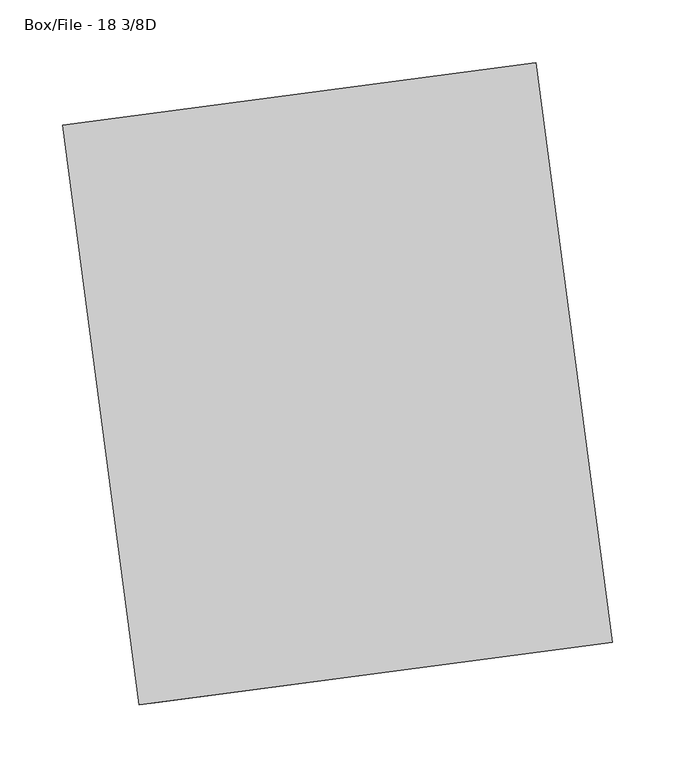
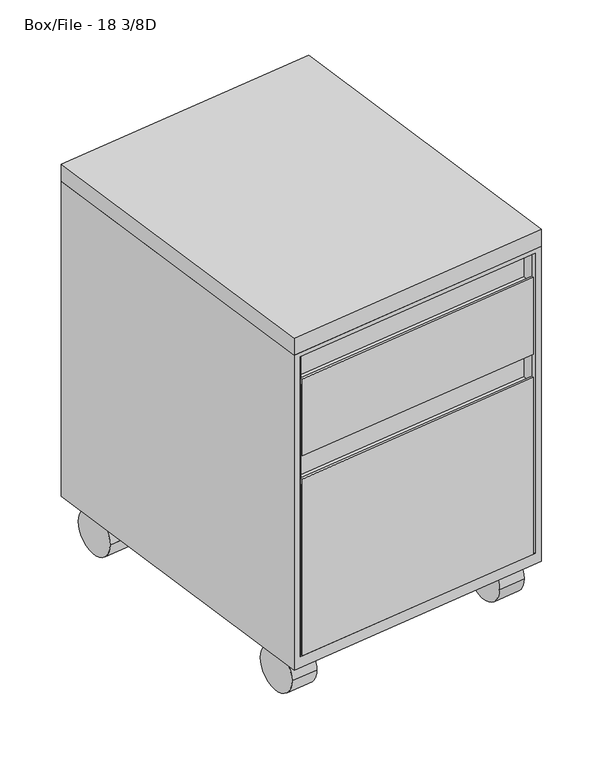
"""IFC4 building model written with IfcOpenShell, lengths in millimetres: furniture geometry, Steelcase - Universal Storage - Mobile Pedestal - Flush Steel : Box/File - 18 3/8D."""

from ifc_helpers import new_model, si_unit, point, frame, frame_2d, origin, place, context, project, spatial, polyline, circle_curve, trimmed, segment, composite_curve, outline, extrude, faceted_brep, source, transform, mapped, element, save


def box_file_18_3_8d_6d5d1077(model_context):
    return source(origin(), model_context, "Body", "SolidModel", [
        extrude(outline(polyline([(377.7311592, 49.8013183), (0.0, 0.0), (-61.0232154, 462.8465805), (316.7079438, 512.6478988), (377.7311592, 49.8013183)])), frame((0.0, 0.0, 533.4), z_axis=(0.0, 0.0, 1.0), x_axis=(1.0, 0.0, 0.0)), (0.0, 0.0, 1.0), 25.4),
        extrude(outline(composite_curve([segment(trimmed(circle_curve(frame_2d((0.0, -31.75)), 31.75), [point((0.0, -63.5))], [point((0.0, 0.0))], False, "CARTESIAN"), True, "CONTINUOUS"), segment(trimmed(circle_curve(frame_2d((0.0, -31.75)), 31.75), [point((0.0, 0.0))], [point((0.0, -63.5))], False, "CARTESIAN"), True, "CONTINUOUS")], self_intersect=False)), frame((269.7691174, 487.3712047, 31.75), z_axis=(0.9914203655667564, 0.13071212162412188, 0.0), x_axis=(0.0, 0.0, -1.0)), (0.0, 0.0, 1.0), 38.1),
        extrude(outline(composite_curve([segment(trimmed(circle_curve(frame_2d((0.0, -31.75)), 31.75), [point((0.0, -63.5))], [point((0.0, 0.0))], False, "CARTESIAN"), True, "CONTINUOUS"), segment(trimmed(circle_curve(frame_2d((0.0, -31.75)), 31.75), [point((0.0, 0.0))], [point((0.0, -63.5))], False, "CARTESIAN"), True, "CONTINUOUS")], self_intersect=False)), frame((-46.8854607, 445.4048859, 31.75), z_axis=(0.9914203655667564, 0.13071212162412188, 0.0), x_axis=(0.0, 0.0, -1.0)), (0.0, 0.0, 1.0), 38.1),
        extrude(outline(composite_curve([segment(trimmed(circle_curve(frame_2d((0.0, -31.75)), 31.75), [point((0.0, -63.5))], [point((0.0, 0.0))], False, "CARTESIAN"), True, "CONTINUOUS"), segment(trimmed(circle_curve(frame_2d((0.0, -31.75)), 31.75), [point((0.0, 0.0))], [point((0.0, -63.5))], False, "CARTESIAN"), True, "CONTINUOUS")], self_intersect=False)), frame((317.5119829, 125.2529213, 31.75), z_axis=(0.9914203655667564, 0.13071212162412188, 0.0), x_axis=(0.0, 0.0, -1.0)), (0.0, 0.0, 1.0), 38.1),
        extrude(outline(composite_curve([segment(trimmed(circle_curve(frame_2d((0.0, -31.75)), 31.75), [point((0.0, -63.5))], [point((0.0, 0.0))], False, "CARTESIAN"), True, "CONTINUOUS"), segment(trimmed(circle_curve(frame_2d((0.0, -31.75)), 31.75), [point((0.0, 0.0))], [point((0.0, -63.5))], False, "CARTESIAN"), True, "CONTINUOUS")], self_intersect=False)), frame((0.8565804, 83.5040316, 31.75), z_axis=(0.9914203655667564, 0.13071212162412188, 0.0), x_axis=(0.0, 0.0, -1.0)), (0.0, 0.0, 1.0), 38.1),
        extrude(outline(polyline([(364.8325558, 51.3029701), (12.2838426, 4.8217882), (10.2087876, 20.560587), (362.7575008, 67.0417688), (364.8325558, 51.3029701)])), frame((0.0, 0.0, 79.5439123), z_axis=(0.0, 0.0, 1.0), x_axis=(1.0, 0.0, 0.0)), (0.0, 0.0, 1.0), 254.000003),
        extrude(outline(polyline([(365.2474805, 48.1558644), (12.6987674, 1.6746826), (12.2838426, 4.8217882), (364.8325558, 51.3029701), (365.2474805, 48.1558644)])), frame((0.0, 0.0, 79.5439123), z_axis=(0.0, 0.0, 1.0), x_axis=(1.0, 0.0, 0.0)), (0.0, 0.0, 1.0), 263.524997),
        extrude(outline(polyline([(364.8325558, 51.3029701), (12.2838426, 4.8217882), (10.2087876, 20.560587), (362.7575008, 67.0417688), (364.8325558, 51.3029701)])), frame((0.0, 0.0, 377.8669214), z_axis=(0.0, 0.0, 1.0), x_axis=(1.0, 0.0, 0.0)), (0.0, 0.0, 1.0), 104.9019879),
        extrude(outline(polyline([(365.2475369, 48.1554365), (12.6988238, 1.6742547), (12.2838426, 4.8217882), (364.8325558, 51.3029701), (365.2475369, 48.1554365)])), frame((0.0, 0.0, 377.8669214), z_axis=(0.0, 0.0, 1.0), x_axis=(1.0, 0.0, 0.0)), (0.0, 0.0, 1.0), 114.3),
        faceted_brep([(316.7079438, 512.6478988, 533.4), (377.7311592, 49.8013183, 533.4), (377.7311592, 49.8013183, 63.5), (316.7079438, 512.6478988, 63.5), (-61.0232154, 462.8465805, 533.4), (-61.0232154, 462.8465805, 63.5), (0.0, 0.0, 63.5), (0.0, 0.0, 533.4), (368.3957391, 48.5705058, 527.05), (368.3957391, 48.5705058, 79.5439123), (9.5512903, 1.2592735, 79.5439123), (9.5512903, 1.2592735, 527.05), (12.2838426, 4.8217882, 527.05), (10.2087876, 20.560587, 527.05), (362.7567941, 67.0416757, 527.05), (364.8324685, 51.3036321, 527.05), (10.2087876, 20.560587, 79.5439123), (362.7567941, 67.0416757, 79.5439123), (12.2838426, 4.8217882, 79.5439123), (364.8324685, 51.3036321, 79.5439123)], [[[0, 1, 2, 3]], [[4, 5, 6, 7]], [[1, 0, 4, 7]], [[2, 1, 7, 6], [8, 9, 10, 11]], [[8, 11, 12, 13, 14, 15]], [[14, 13, 16, 17]], [[17, 16, 18, 10, 9, 19]], [[3, 2, 6, 5]], [[0, 3, 5, 4]], [[11, 10, 18, 12]], [[12, 18, 16, 13]], [[19, 15, 14, 17]], [[15, 19, 9, 8]]]),
    ])


if __name__ == "__main__":
    model = new_model("IFC4")
    model_context = context("Model", 3, world=origin())
    ifc_project = project(units=[si_unit("LENGTHUNIT", "METRE", prefix="MILLI")], contexts=[model_context])
    site = spatial("IfcSite", under=ifc_project)
    building = spatial("IfcBuilding", under=site)
    placement = place(None, origin())
    box_file_18_3_8d_shape = box_file_18_3_8d_6d5d1077(model_context)
    element("IfcFurniture", 1, ObjectType="Steelcase - Universal Storage - Mobile Pedestal - Flush Steel : Box/File - 18 3/8D", at=placement, inside=building, context=model_context, shape_type="MappedRepresentation", body=[
        mapped(box_file_18_3_8d_shape, transform((0.0, 0.0, 0.0), x_axis=(1.0, 0.0, 0.0), y_axis=(0.0, 1.0, 0.0), z_axis=(0.0, 0.0, 1.0))),
    ])
    save(model, "model.ifc")
